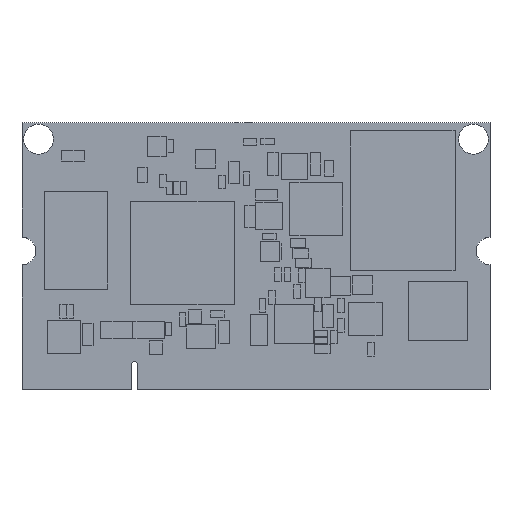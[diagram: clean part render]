
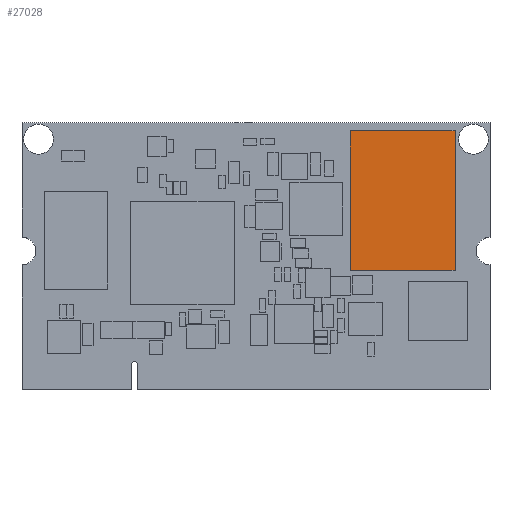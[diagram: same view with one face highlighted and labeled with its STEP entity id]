
A CAD part, top view. The second image highlights one B-rep face of the part: STEP entity #27028.
In plain terms, the highlighted planar face has unit normal (0, 0, 1).
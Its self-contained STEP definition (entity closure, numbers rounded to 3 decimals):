
#1852 = ORIENTED_EDGE ( 'NONE', *, *, #17058, .T. ) ;
#2507 = PLANE ( 'NONE',  #9033 ) ;
#4791 = LINE ( 'NONE', #20175, #18676 ) ;
#4991 = DIRECTION ( 'NONE',  ( -1., 0., 0. ) ) ;
#5068 = ORIENTED_EDGE ( 'NONE', *, *, #21747, .T. ) ;
#5792 = FACE_OUTER_BOUND ( 'NONE', #18142, .T. ) ;
#6784 = ORIENTED_EDGE ( 'NONE', *, *, #9887, .T. ) ;
#7565 = VECTOR ( 'NONE', #10034, 1000. ) ;
#8211 = DIRECTION ( 'NONE',  ( 0., 0., -1. ) ) ;
#9033 = AXIS2_PLACEMENT_3D ( 'NONE', #11436, #8211, #4991 ) ;
#9240 = VECTOR ( 'NONE', #11430, 1000. ) ;
#9887 = EDGE_CURVE ( 'NONE', #15228, #13309, #17895, .T. ) ;
#10034 = DIRECTION ( 'NONE',  ( 0., -1., 0. ) ) ;
#11430 = DIRECTION ( 'NONE',  ( 1., 0., 0. ) ) ;
#11436 = CARTESIAN_POINT ( 'NONE',  ( 0., 0., 2.668 ) ) ;
#11732 = DIRECTION ( 'NONE',  ( 0., 1., 0. ) ) ;
#12164 = CARTESIAN_POINT ( 'NONE',  ( 47.439, 17.226, 2.668 ) ) ;
#12880 = EDGE_CURVE ( 'NONE', #13309, #20878, #18204, .T. ) ;
#13252 = CARTESIAN_POINT ( 'NONE',  ( 47.439, 17.226, 2.668 ) ) ;
#13309 = VERTEX_POINT ( 'NONE', #21610 ) ;
#14640 = CARTESIAN_POINT ( 'NONE',  ( 62.546, 17.226, 2.668 ) ) ;
#14943 = CARTESIAN_POINT ( 'NONE',  ( 62.546, 37.334, 2.668 ) ) ;
#15228 = VERTEX_POINT ( 'NONE', #12164 ) ;
#16487 = LINE ( 'NONE', #13252, #7565 ) ;
#16915 = DIRECTION ( 'NONE',  ( -1., 0., 0. ) ) ;
#17058 = EDGE_CURVE ( 'NONE', #20878, #28441, #4791, .T. ) ;
#17895 = LINE ( 'NONE', #14640, #9240 ) ;
#18142 = EDGE_LOOP ( 'NONE', ( #6784, #29560, #1852, #5068 ) ) ;
#18204 = LINE ( 'NONE', #14943, #20555 ) ;
#18676 = VECTOR ( 'NONE', #16915, 1000. ) ;
#20175 = CARTESIAN_POINT ( 'NONE',  ( 47.439, 37.334, 2.668 ) ) ;
#20555 = VECTOR ( 'NONE', #11732, 1000. ) ;
#20878 = VERTEX_POINT ( 'NONE', #26856 ) ;
#21610 = CARTESIAN_POINT ( 'NONE',  ( 62.546, 17.226, 2.668 ) ) ;
#21747 = EDGE_CURVE ( 'NONE', #28441, #15228, #16487, .T. ) ;
#22903 = CARTESIAN_POINT ( 'NONE',  ( 47.439, 37.334, 2.668 ) ) ;
#26856 = CARTESIAN_POINT ( 'NONE',  ( 62.546, 37.334, 2.668 ) ) ;
#27028 = ADVANCED_FACE ( 'NONE', ( #5792 ), #2507, .F. ) ;
#28441 = VERTEX_POINT ( 'NONE', #22903 ) ;
#29560 = ORIENTED_EDGE ( 'NONE', *, *, #12880, .T. ) ;
